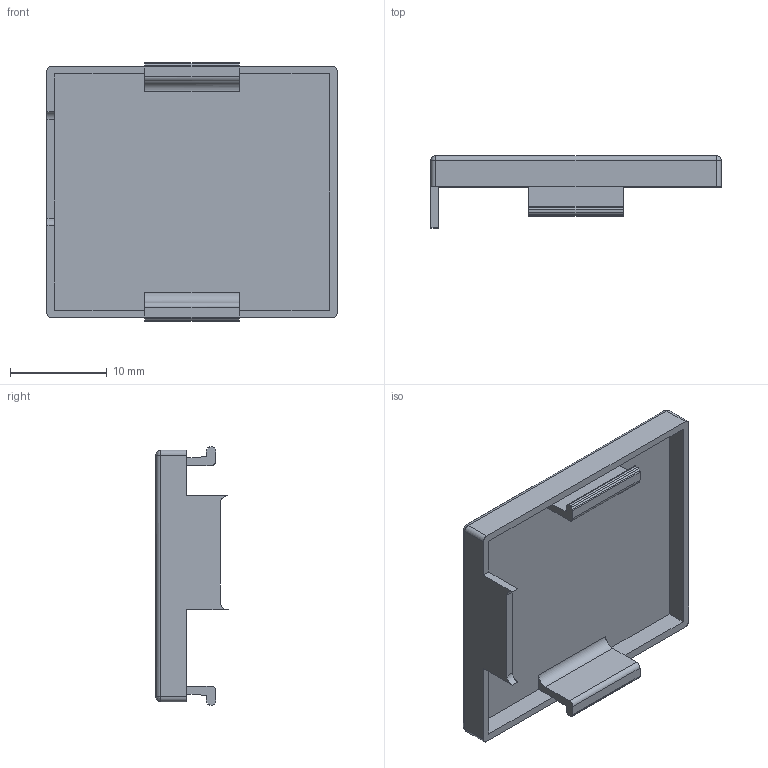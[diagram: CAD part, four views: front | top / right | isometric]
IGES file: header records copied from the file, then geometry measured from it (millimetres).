
Global section: file name: Tappo case_v26ago; native system: Autodesk Inventor 2018; preprocessor: unknown; author: Alessia Buffagni; date: 20190826.193036; units: millimetre
Bounding box: 30 x 7.45 x 26.67 mm (x, y, z)
Volume: 1241 mm3; surface area: 2352.8 mm2
Topology: 1 solids, 1 shells, 60 faces, 158 edges, 100 vertices
Faces by surface type: bspline 60
